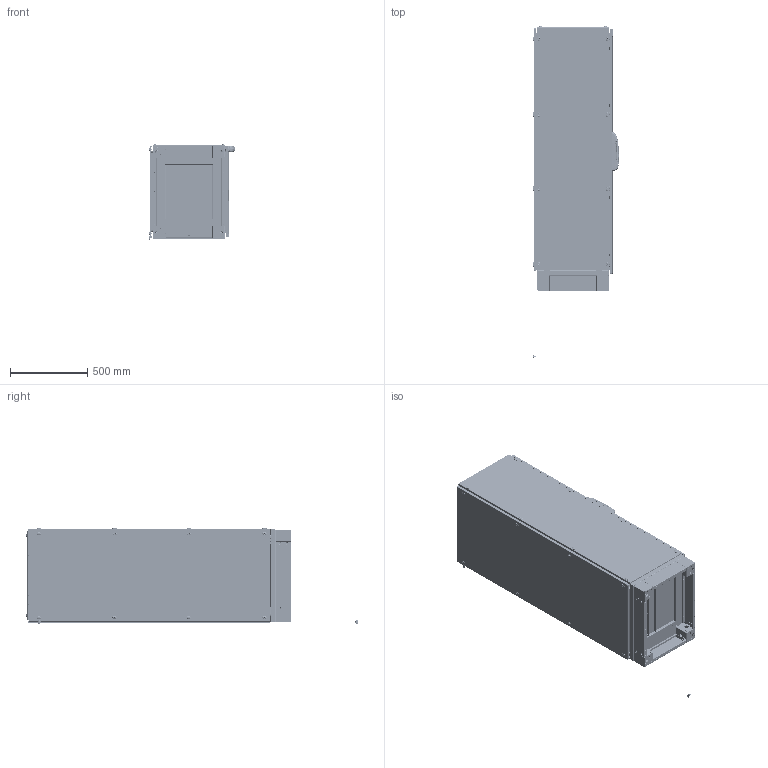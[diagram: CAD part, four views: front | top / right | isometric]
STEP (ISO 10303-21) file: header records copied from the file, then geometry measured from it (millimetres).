
FILE_DESCRIPTION (( 'STEP AP203' ), '1' );
FILE_NAME ('706.165 600x1600x500.STEP', '2020-04-04T14:21:23', ( '' ), ( '' ), 'SwSTEP 2.0', 'SolidWorks 2019', '' );
FILE_SCHEMA (( 'CONFIG_CONTROL_DESIGN' ));
Length unit declared in the file: millimetre
Products named in the file (126): M5 DÝKEY PROFÝL RONDELA; M6 HAVÞA PLASTÝK CÝVATA; PB 14.0004 M6 HAVÞA PLASTÝK CÝVATA; mentese orta 09-201; kapali dikey profilkenetli_ita oluklu10-aaaaaaaaaaaa-1_500; 22032010-PLASTIK KOSE50x40; TEOS Kilit Üst Çubuk Montaj_1600H; M8 Kare Somun_m8; 03-TABAN SACI SURGU_PP 12.0030 - 600; MP 18.7631 Kayar Parça; TEOS SIDE PANEL_706.165 1600X500; M6 KAFES SOMU2015; Teos-Neo MP Sað Braketi; V2 -2011 DT BAZA KAPAGI ON_PP 12.0045 - 600; MP 18.7631 Modul; Teos-Neo MP Sol Braketi; BAZA SISTEMIV2-6 baza kapaðý201550x40_TEKPAN LOGOLU; kapali dikey profilkenetli_ita oluklu10-aaaaaaaaaaaa-1_600; 03-2012 sac kilit dil 10-2010 ORTA; delikli profil cerceve_600x1600; TEOS Kilit Alt Çubuk Montaj_1600H; kafes somun kafes; MP 18.7631 yddk_tozkapagi; M8 KAFES SOMUN_m8; TEOS Kilit Alt Çubuk_1600; MP 18.7631 32002136; TEOS-NEO MP Sol Dayama; MP 18.7631 Tekpan ASSEMBLY 27092017_mekanizmasiz; on citaVER3 teos26-12_600; Teos-Neo MP Sol Braket Montaj_Standart Pozisyon; 03-KOSE PUNT; yan arka kapak baglantý saci orta; kapali dikey profilkenetli_ita oluklu10-aaaaaaaaaaaa-1_1600; percinli taban-vidalý kapak-kose pls yok_701.650-60X50 ALT; ENINE DELIKLI PROFIL_600; MP 11.0140 TEOS ALUMINYUM KOSE APPROVED 16.08.2010; TEOS Yeni Kapak Montaj version 2_1600; somu; kose rondela kabartmaSIZ 12; Teos-Neo 3mm MOUNTING PLATE_TEOS MP 600x1600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
Assembly tree (390 placements, depth 7):
  706.165 600x1600x500
    TEOS iskelet_600x1600x500
      kapali dikey profilkenetli_ita oluklu10-aaaaaaaaaaaa-1_1600  x4
      kapali dikey profilkenetli_ita oluklu10-aaaaaaaaaaaa-1_500  x4
      kapali dikey profilkenetli_ita oluklu10-aaaaaaaaaaaa-1_600  x4
      L KOSE DESTEKorj1  x8
      kose rondela kabartmaSIZ 10  x15
      kose rondela kabartmaSIZ 12
      MP 11.0140 TEOS ALUMINYUM KOSE APPROVED 16.08.2010  x8
      M5 DÝKEY PROFÝL RONDELA  x16
      percinli taban-vidalý kapak-kose pls yok_701.650-60X50 ALT
        03-taban genislik percinli 04 - 2012 100-120_PP 12.0019 - 600  x2
        03taban derinlik percinli_PP 12.0024 - 500  x2
        03-KOSE PUNT_PP 12.0027
        03-KOSE PUNT
        Mirror03-KOSE PUNT  x2
        TEOS V2 BAZA S嵞TEM廆600X500
          BAZA KÖÞES_SAG
            V2 BAZA KOSESI2015_100
            BAZA SISTEMIV2-6 baza kapaðý201550x40_TEKPAN LOGOLU
            M6 KAFES SOMU2015
              kafes somun kafes
              somu
            M6 KAFES SOMU2015
              kafes somun kafes
              somu
          V2 -2011 DT BAZA KAPAGI ON_PP 12.0045 - 600  x2
          BAZA KÖÞES_SOL
            V2 BAZA KOSESI2015_100
            BAZA SISTEMIV2-6 baza kapaðý201550x40
            M6 KAFES SOMU2015
              kafes somun kafes
              somu
            M6 KAFES SOMU2015
              kafes somun kafes
              somu
          BAZA KÖÞES_SAG
            V2 BAZA KOSESI2015_100
            BAZA SISTEMIV2-6 baza kapaðý201550x40_TEKPAN LOGOLU
            M6 KAFES SOMU2015
              kafes somun kafes
              somu
            M6 KAFES SOMU2015
              kafes somun kafes
              somu
          BAZA KÖÞES_SOL
            V2 BAZA KOSESI2015_100
            BAZA SISTEMIV2-6 baza kapaðý201550x40
            M6 KAFES SOMU2015
              kafes somun kafes
              somu
            M6 KAFES SOMU2015
              kafes somun kafes
              somu
          V3 -2011 DT BAZA KAPAGI yan_PP 12.0050 - 500  x2
          flat head screw_am_B18.6.7M - M6 x 1.0 x 20 Type I Cross Recessed FHMS --20N  x8
        03-TABAN SACI SURGU_PP 12.0030 - 600
        03-TABAN SACI U1 04-2012_PP 12.0040 - 600-75
        03-TABAN SACI U1 04-2012_PP 12.0035 - 600-200
        mp aLT DAYAMA_PP 12.0092 - 500  x2
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Bounding box: 558.08 x 2150.81 x 623.59 mm (x, y, z)
Volume: 16315814.7 mm3; surface area: 17116978.1 mm2
Topology: 335 solids, 375 shells, 49383 faces, 133309 edges, 84374 vertices
Faces by surface type: plane 31525, cylinder 12911, bspline 2211, torus 1155, cone 972, sphere 609
Entity records: 686877 total; most frequent: CARTESIAN_POINT 291738, ORIENTED_EDGE 80338, DIRECTION 73782, EDGE_CURVE 40169, LINE 26840, VECTOR 26840, VERTEX_POINT 25674, AXIS2_PLACEMENT_3D 23471
